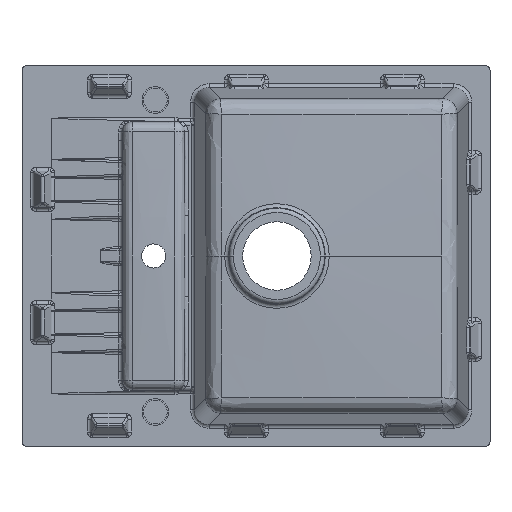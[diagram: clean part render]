
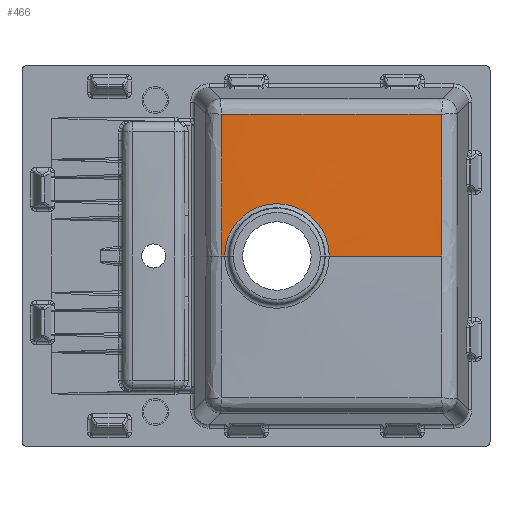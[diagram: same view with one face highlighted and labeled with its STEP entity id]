
A CAD part, front view. The second image highlights one B-rep face of the part: STEP entity #466.
In plain terms, the highlighted conical face has half-angle 88 degrees and reference radius 61.763 mm.
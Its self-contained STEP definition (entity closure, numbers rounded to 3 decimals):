
#466 = ADVANCED_FACE ( 'NONE', ( #10634 ), #18587, .T. ) ;
#970 = DIRECTION ( 'NONE',  ( 0., 1., 0. ) ) ;
#1184 = VERTEX_POINT ( 'NONE', #22299 ) ;
#1527 = CARTESIAN_POINT ( 'NONE',  ( 234.109, 203.381, 534.976 ) ) ;
#1909 = CARTESIAN_POINT ( 'NONE',  ( 209.997, 203.688, 534.973 ) ) ;
#3042 = ORIENTED_EDGE ( 'NONE', *, *, #9904, .T. ) ;
#3440 = CARTESIAN_POINT ( 'NONE',  ( 378.782, 203.977, 534.97 ) ) ;
#3686 = CARTESIAN_POINT ( 'NONE',  ( 451.106, 205.443, 534.987 ) ) ;
#3819 = CARTESIAN_POINT ( 'NONE',  ( 210.068, 201.724, 472.883 ) ) ;
#3940 = DIRECTION ( 'NONE',  ( -0.999, 0.035, 0. ) ) ;
#4279 = CARTESIAN_POINT ( 'NONE',  ( 499.282, 204.546, 410.797 ) ) ;
#4512 = EDGE_CURVE ( 'NONE', #1184, #13636, #16919, .T. ) ;
#4965 = CIRCLE ( 'NONE', #22387, 68.699 ) ;
#5601 = CARTESIAN_POINT ( 'NONE',  ( 209.92, 199.25, 348.672 ) ) ;
#5854 = CARTESIAN_POINT ( 'NONE',  ( 210.011, 199.868, 403.022 ) ) ;
#6182 = CARTESIAN_POINT ( 'NONE',  ( 499.284, 204.259, 364.204 ) ) ;
#6688 = CARTESIAN_POINT ( 'NONE',  ( 499.295, 205.968, 503.975 ) ) ;
#7142 = CARTESIAN_POINT ( 'NONE',  ( 209.997, 203.688, 534.973 ) ) ;
#7250 = CARTESIAN_POINT ( 'NONE',  ( 214.184, 199.101, 348.672 ) ) ;
#7297 = CARTESIAN_POINT ( 'NONE',  ( 344.646, 198.859, 348.672 ) ) ;
#7676 = AXIS2_PLACEMENT_3D ( 'NONE', #20126, #970, #16078 ) ;
#7748 = CARTESIAN_POINT ( 'NONE',  ( 209.92, 199.25, 356.438 ) ) ;
#9160 = CARTESIAN_POINT ( 'NONE',  ( 210.05, 200.414, 426.311 ) ) ;
#9461 = B_SPLINE_CURVE_WITH_KNOTS ( 'NONE', 3,
 ( #19274, #20808, #3686, #21310, #3440, #13458, #15474, #19153, #1527, #1909 ),
 .UNSPECIFIED., .F., .F.,
 ( 4, 2, 2, 2, 4 ),
 ( 0., 0.072, 0.145, 0.217, 0.289 ),
 .UNSPECIFIED. ) ;
#9904 = EDGE_CURVE ( 'NONE', #12455, #1184, #4965, .T. ) ;
#10488 = CARTESIAN_POINT ( 'NONE',  ( 499.283, 204.318, 379.735 ) ) ;
#10562 = ORIENTED_EDGE ( 'NONE', *, *, #15098, .T. ) ;
#10634 = FACE_OUTER_BOUND ( 'NONE', #17144, .T. ) ;
#10711 = B_SPLINE_CURVE_WITH_KNOTS ( 'NONE', 3,
 ( #22973, #21307, #15107, #3819, #24992, #19269, #9160, #19151, #5854, #17005, #13206, #23220, #7748, #5601 ),
 .UNSPECIFIED., .F., .F.,
 ( 4, 2, 2, 2, 2, 2, 4 ),
 ( 0., 0.047, 0.093, 0.116, 0.14, 0.163, 0.186 ),
 .UNSPECIFIED. ) ;
#12455 = VERTEX_POINT ( 'NONE', #7250 ) ;
#13206 = CARTESIAN_POINT ( 'NONE',  ( 209.958, 199.458, 379.732 ) ) ;
#13458 = CARTESIAN_POINT ( 'NONE',  ( 330.558, 203.371, 534.976 ) ) ;
#13474 = EDGE_CURVE ( 'NONE', #13636, #14614, #15508, .T. ) ;
#13636 = VERTEX_POINT ( 'NONE', #24301 ) ;
#13903 = DIRECTION ( 'NONE',  ( -1., 0., 0. ) ) ;
#13944 = VECTOR ( 'NONE', #15016, 1000. ) ;
#14408 = CARTESIAN_POINT ( 'NONE',  ( 499.317, 206.676, 535.03 ) ) ;
#14477 = ORIENTED_EDGE ( 'NONE', *, *, #15780, .T. ) ;
#14614 = VERTEX_POINT ( 'NONE', #22115 ) ;
#15011 = VECTOR ( 'NONE', #3940, 1000. ) ;
#15016 = DIRECTION ( 'NONE',  ( 0.999, 0.035, 0. ) ) ;
#15098 = EDGE_CURVE ( 'NONE', #24700, #17949, #10711, .T. ) ;
#15107 = CARTESIAN_POINT ( 'NONE',  ( 210.043, 202.686, 503.929 ) ) ;
#15302 = ORIENTED_EDGE ( 'NONE', *, *, #21525, .F. ) ;
#15468 = LINE ( 'NONE', #21051, #15011 ) ;
#15474 = CARTESIAN_POINT ( 'NONE',  ( 306.446, 203.206, 534.981 ) ) ;
#15508 = B_SPLINE_CURVE_WITH_KNOTS ( 'NONE', 3,
 ( #17711, #6182, #10488, #4279, #18203, #24055, #6688, #14408 ),
 .UNSPECIFIED., .F., .F.,
 ( 4, 2, 2, 4 ),
 ( 0., 0.047, 0.093, 0.186 ),
 .UNSPECIFIED. ) ;
#15780 = EDGE_CURVE ( 'NONE', #14614, #24700, #9461, .T. ) ;
#16078 = DIRECTION ( 'NONE',  ( -1., 0., 0. ) ) ;
#16919 = LINE ( 'NONE', #7297, #13944 ) ;
#17005 = CARTESIAN_POINT ( 'NONE',  ( 209.977, 199.577, 387.496 ) ) ;
#17144 = EDGE_LOOP ( 'NONE', ( #3042, #20823, #22831, #14477, #10562, #15302 ) ) ;
#17691 = CARTESIAN_POINT ( 'NONE',  ( 209.92, 199.25, 348.672 ) ) ;
#17711 = CARTESIAN_POINT ( 'NONE',  ( 499.284, 204.259, 348.672 ) ) ;
#17949 = VERTEX_POINT ( 'NONE', #17691 ) ;
#18203 = CARTESIAN_POINT ( 'NONE',  ( 499.281, 204.715, 426.327 ) ) ;
#18587 = CONICAL_SURFACE ( 'NONE', #7676, 61.763, 1.536 ) ;
#19151 = CARTESIAN_POINT ( 'NONE',  ( 210.027, 200.04, 410.785 ) ) ;
#19153 = CARTESIAN_POINT ( 'NONE',  ( 258.221, 203.211, 534.981 ) ) ;
#19269 = CARTESIAN_POINT ( 'NONE',  ( 210.058, 200.618, 434.073 ) ) ;
#19274 = CARTESIAN_POINT ( 'NONE',  ( 499.317, 206.676, 535.03 ) ) ;
#19602 = DIRECTION ( 'NONE',  ( 0., 1., 0. ) ) ;
#20126 = CARTESIAN_POINT ( 'NONE',  ( 282.883, 198.859, 348.672 ) ) ;
#20750 = CARTESIAN_POINT ( 'NONE',  ( 282.883, 199.101, 348.672 ) ) ;
#20808 = CARTESIAN_POINT ( 'NONE',  ( 475.212, 206.037, 535.005 ) ) ;
#20823 = ORIENTED_EDGE ( 'NONE', *, *, #4512, .T. ) ;
#21051 = CARTESIAN_POINT ( 'NONE',  ( 221.119, 198.859, 348.672 ) ) ;
#21307 = CARTESIAN_POINT ( 'NONE',  ( 210.022, 203.183, 519.451 ) ) ;
#21310 = CARTESIAN_POINT ( 'NONE',  ( 402.891, 204.412, 534.97 ) ) ;
#21525 = EDGE_CURVE ( 'NONE', #12455, #17949, #15468, .T. ) ;
#22115 = CARTESIAN_POINT ( 'NONE',  ( 499.317, 206.676, 535.03 ) ) ;
#22299 = CARTESIAN_POINT ( 'NONE',  ( 351.581, 199.101, 348.672 ) ) ;
#22387 = AXIS2_PLACEMENT_3D ( 'NONE', #20750, #19602, #13903 ) ;
#22831 = ORIENTED_EDGE ( 'NONE', *, *, #13474, .T. ) ;
#22973 = CARTESIAN_POINT ( 'NONE',  ( 209.997, 203.688, 534.973 ) ) ;
#23220 = CARTESIAN_POINT ( 'NONE',  ( 209.929, 199.294, 364.203 ) ) ;
#24055 = CARTESIAN_POINT ( 'NONE',  ( 499.285, 205.359, 472.918 ) ) ;
#24301 = CARTESIAN_POINT ( 'NONE',  ( 499.284, 204.259, 348.672 ) ) ;
#24700 = VERTEX_POINT ( 'NONE', #7142 ) ;
#24992 = CARTESIAN_POINT ( 'NONE',  ( 210.072, 201.258, 457.36 ) ) ;
